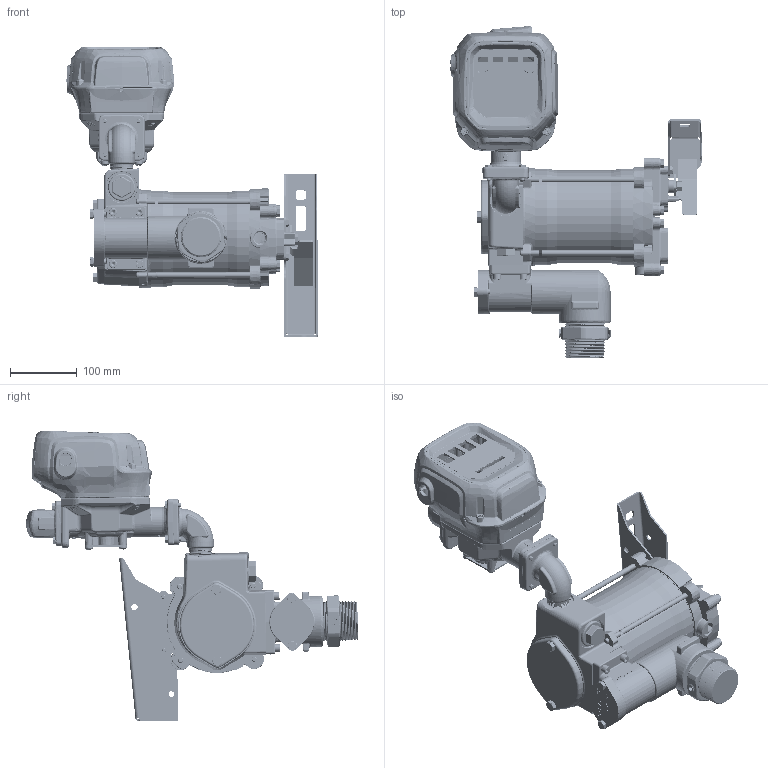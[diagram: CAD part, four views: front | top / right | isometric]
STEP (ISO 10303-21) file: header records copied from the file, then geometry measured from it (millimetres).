
FILE_DESCRIPTION(/* description */ (''),/* implementation_level */ '2;1');
FILE_NAME(/* name */ 'C:\Vault Projects\GPI Eng\New Projects\DHarris\Website model updates\STEP\PRO20-115PO_QM40.stp',/* time_stamp */ '2022-07-20T13:44:23-05:00',/* author */ ('gdanhar'),/* organization */ (''),/* preprocessor_version */ 'ST-DEVELOPER v18.1',/* originating_system */ 'Autodesk Inventor 2022',/* authorisation */ '');
FILE_SCHEMA (('AUTOMOTIVE_DESIGN { 1 0 10303 214 3 1 1 }'));
Length unit declared in the file: inch
Products named in the file (1): PRO20-115PO_QM240G8N
Bounding box: 376.87 x 497.7 x 435.85 mm (x, y, z)
Volume: 6915609.1 mm3; surface area: 736603.2 mm2
Topology: 7 solids, 32 shells, 9327 faces, 24163 edges, 15055 vertices
Faces by surface type: bspline 3527, plane 2963, cylinder 1515, cone 668, torus 427, sphere 227
Full cylindrical faces by diameter (mm): 0.136 x2, 2.962 x10, 3.302 x2, 3.68 x1, 4 x4, 4.75 x1, 5.781 x1, 5.838 x1, 5.994 x14, 6 x31, 6.078 x22, 6.35 x5, 6.401 x4, 7 x4, 7.798 x2, 7.806 x4, 7.925 x4, 7.938 x10, 8 x1, 8.23 x4, 8.331 x4, 8.382 x1, 8.88 x7, 9.487 x1, 9.525 x10, 9.538 x1, 9.779 x1, 10 x4, 10.001 x2, 10.312 x2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
Entity records: 612363 total; most frequent: CARTESIAN_POINT 399742, ORIENTED_EDGE 48050, DIRECTION 33408, EDGE_CURVE 24025, VERTEX_POINT 15042, AXIS2_PLACEMENT_3D 12401, EDGE_LOOP 9788, FACE_OUTER_BOUND 9326
